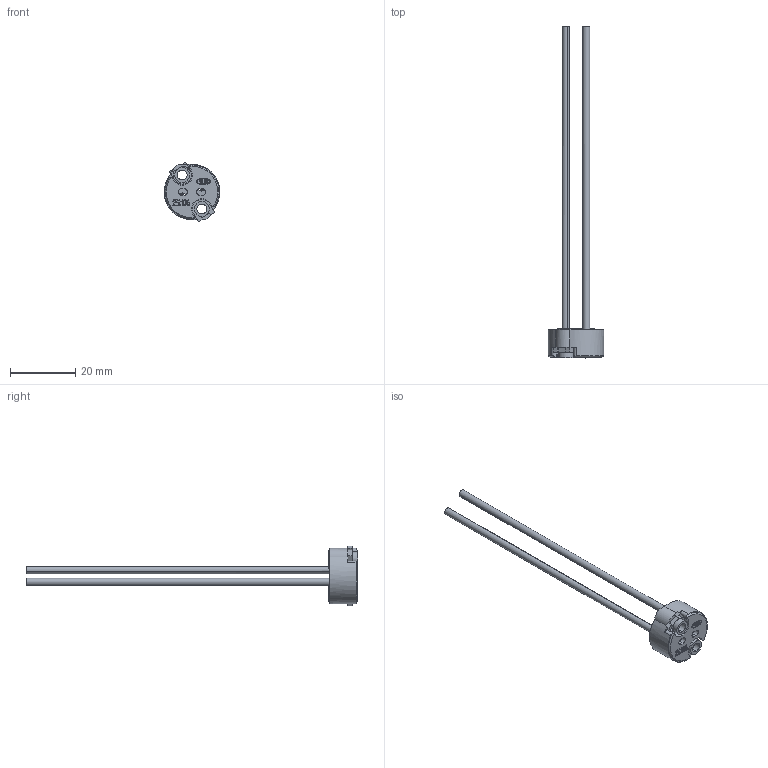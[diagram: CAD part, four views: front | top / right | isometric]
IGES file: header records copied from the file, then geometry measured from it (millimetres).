
Global section: file name: C:\CoreTechnologie\3D-in\005Y00IY03.igs; native system: CT CoreTechnologie 3D Evolution; preprocessor: 2006; author: `Ð12; date: 1171020.133530; units: millimetre
Bounding box: 17 x 101.7 x 18.32 mm (x, y, z)
Volume: 2228.3 mm3; surface area: 3090.1 mm2
Topology: 1 solids, 4 shells, 227 faces, 616 edges, 407 vertices
Faces by surface type: plane 142, revolution 66, bspline 19
